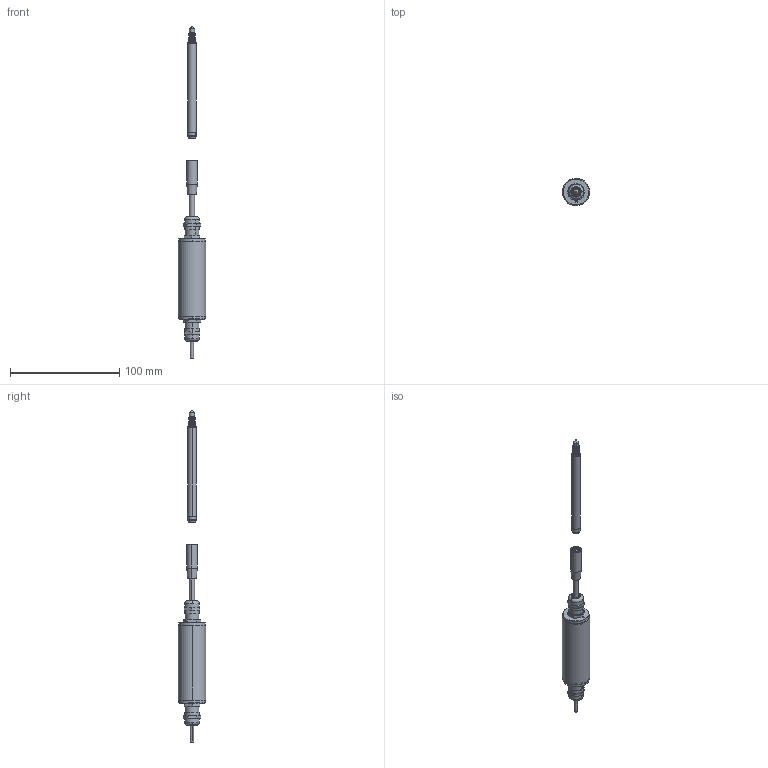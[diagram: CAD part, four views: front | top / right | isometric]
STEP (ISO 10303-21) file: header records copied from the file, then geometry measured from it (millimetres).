
FILE_DESCRIPTION(('STEP AP203'),'1');
FILE_NAME('C:/TPO v2/SharedFS/Outgoing/burster_8739-5005-v501_bb6xo983mhqpxqqos55kl7nmz.stp','2013-08-27T14:27:31',('TraceParts'),('TraceParts S.A.'),'XStep 1.0',' ',' ');
FILE_SCHEMA(('CONFIG_CONTROL_DESIGN'));
Length unit declared in the file: millimetre
Products named in the file (4): 1; 2; 3; 4
Bounding box: 24.96 x 24.96 x 304.5 mm (x, y, z)
Volume: 23227.2 mm3; surface area: 22835.4 mm2
Topology: 4 solids, 7 shells, 591 faces, 1455 edges, 918 vertices
Faces by surface type: cylinder 179, plane 156, cone 144, torus 102, sphere 10
Entity records: 17823 total; most frequent: DIRECTION 3385, CARTESIAN_POINT 3198, ORIENTED_EDGE 2882, EDGE_CURVE 1441, AXIS2_PLACEMENT_3D 1431, VERTEX_POINT 918, CIRCLE 834, EDGE_LOOP 655
